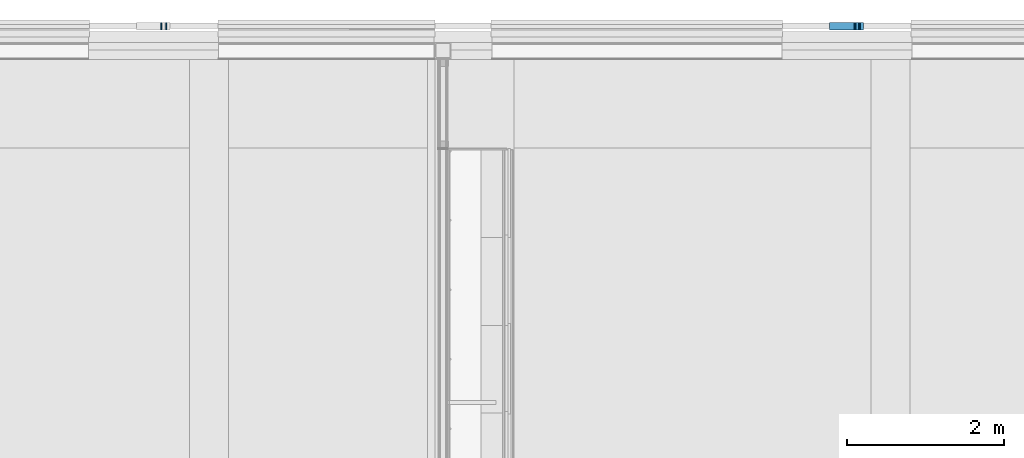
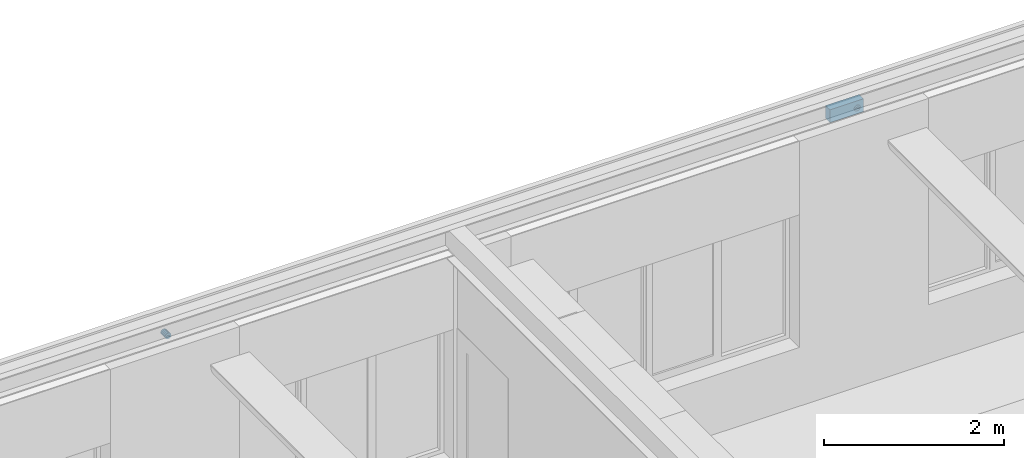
# One storey, part 100 of 137: 4 building element parts, 2 elements without a shape of their own.
"""IFC2X3 building model written with IfcOpenShell, lengths in millimetres."""

import ifcopenshell
import ifcopenshell.guid

model = None  # the IFC model being written
_history = None  # IfcOwnerHistory: only IFC2X3 demands one
_inside = {}  # id of a spatial element -> (the spatial element, [elements in it])
_under = {}  # id of a project, library or spatial element -> (it, [spatial elements below it])
_declared = {}  # id of a project -> (the project, [libraries it declares])
_typed = {}  # id of a type object -> (the type object, [elements of that type])
_made_of = {}  # id of a material, layer set ... -> (it, [elements and type objects made of it])


def new_model(schema):
    """Start an empty IFC model of exactly this schema.

    Asked for "IFC4X3", IfcOpenShell would pick the latest addendum, in which some entities
    have other attributes; the version numbers below select the first issue.
    IFC2X3 requires an IfcOwnerHistory on every rooted entity: one is made here for all.
    """
    global model, _history
    if schema == "IFC4X3":
        model = ifcopenshell.file(schema_version=(4, 3, 0, 0))
    else:
        model = ifcopenshell.file(schema=schema)
    _inside.clear()
    _under.clear()
    _declared.clear()
    _typed.clear()
    _made_of.clear()
    _history = None
    if model.schema == "IFC2X3":
        org = make("IfcOrganization", Name="unknown")
        user = make(
            "IfcPersonAndOrganization",
            ThePerson=make("IfcPerson", FamilyName="unknown"),
            TheOrganization=org,
        )
        app = make(
            "IfcApplication",
            ApplicationDeveloper=org,
            Version="unknown",
            ApplicationFullName="unknown",
            ApplicationIdentifier="unknown",
        )
        _history = make(
            "IfcOwnerHistory",
            OwningUser=user,
            OwningApplication=app,
            ChangeAction="ADDED",
            CreationDate=0,
        )
    return model


def make(cls, **values):
    """One entity of the class cls with the attributes given. An attribute that is None is left unset."""
    return model.create_entity(
        cls, **{name: value for name, value in values.items() if value is not None}
    )


def entity(cls, *values):
    """Any entity or typed value of the class cls, its attributes in the order of the schema. None: left unset."""
    e = model.create_entity(cls)
    for i, value in enumerate(values):
        if value is not None:
            e[i] = value
    return e


def rooted(cls, **values):
    """An entity with a GlobalId (a new one), such as an element, a storey or a relation."""
    return make(cls, GlobalId=ifcopenshell.guid.new(), OwnerHistory=_history, **values)


def si_unit(unit_type, name, prefix=None):
    """IfcSIUnit, for example si_unit("LENGTHUNIT", "METRE", prefix="MILLI")."""
    return make("IfcSIUnit", UnitType=unit_type, Prefix=prefix, Name=name)


def converted_unit(unit_type, name, factor, base, dimensions=None, offset=None):
    """IfcConversionBasedUnit, such as the inch: factor (a typed value) times the base unit."""
    return make(
        "IfcConversionBasedUnit"
        if offset is None
        else "IfcConversionBasedUnitWithOffset",
        ConversionOffset=offset,
        Dimensions=None
        if dimensions is None
        else entity("IfcDimensionalExponents", *dimensions),
        UnitType=unit_type,
        Name=name,
        ConversionFactor=make(
            "IfcMeasureWithUnit", ValueComponent=factor, UnitComponent=base
        ),
    )


def derived_unit(unit_type, elements):
    """IfcDerivedUnit: a product of units, each with its exponent."""
    return make(
        "IfcDerivedUnit",
        Elements=[
            make("IfcDerivedUnitElement", Unit=unit, Exponent=power)
            for unit, power in elements
        ],
        UnitType=unit_type,
    )


def money_unit(currency):
    """IfcMonetaryUnit."""
    return make("IfcMonetaryUnit", Currency=currency)


def assignment(units):
    """IfcUnitAssignment: the units of a project."""
    return None if units is None else make("IfcUnitAssignment", Units=units)


def point(xyz):
    """IfcCartesianPoint."""
    return None if xyz is None else make("IfcCartesianPoint", Coordinates=xyz)


def direction(xyz):
    """IfcDirection."""
    return None if xyz is None else make("IfcDirection", DirectionRatios=xyz)


def frame(location, z_axis=None, x_axis=None):
    """IfcAxis2Placement3D, a coordinate frame: its origin and axes. An axis left out is left unset."""
    return make(
        "IfcAxis2Placement3D",
        Location=point(location),
        Axis=direction(z_axis),
        RefDirection=direction(x_axis),
    )


def origin_with_axes():
    """The frame at (0, 0, 0) with the z axis (0, 0, 1) and the x axis (1, 0, 0) written out."""
    return frame((0.0, 0.0, 0.0), z_axis=(0.0, 0.0, 1.0), x_axis=(1.0, 0.0, 0.0))


def place(relative_to, where):
    """IfcLocalPlacement: puts the frame where relative to a parent placement (None: the world)."""
    return make(
        "IfcLocalPlacement", PlacementRelTo=relative_to, RelativePlacement=where
    )


def context(
    kind, dimensions, precision=None, world=None, true_north=None, identifier=None
):
    """IfcGeometricRepresentationContext, for example the 3D "Model" context."""
    return make(
        "IfcGeometricRepresentationContext",
        ContextIdentifier=identifier,
        ContextType=kind,
        CoordinateSpaceDimension=dimensions,
        Precision=precision,
        WorldCoordinateSystem=world,
        TrueNorth=true_north,
    )


def subcontext(parent, identifier, kind, view, scale=None):
    """IfcGeometricRepresentationSubContext, for example "Body" below "Model"."""
    return make(
        "IfcGeometricRepresentationSubContext",
        ContextIdentifier=identifier,
        ContextType=kind,
        ParentContext=parent,
        TargetScale=scale,
        TargetView=view,
    )


def project(units=None, contexts=None):
    """IfcProject with its units and contexts."""
    return rooted(
        "IfcProject",
        Name="project",
        RepresentationContexts=contexts,
        UnitsInContext=assignment(units),
    )


def spatial(cls, under=None, at=None, **own):
    """A site, building, storey or space (cls), placed at a placement, below another one or the project."""
    s = rooted(cls, ObjectPlacement=at, **own)
    if under is not None:
        _under.setdefault(under.id(), (under, []))[1].append(s)
    return s


def faces_of(points, faces, orient=None, outer=None):
    """IfcFace entities. A face is a list of loops; a loop is a list of indices into points, from 0.

    orient and outer hold one flag for each loop. By default every Orientation is true, the
    first loop of a face is its IfcFaceOuterBound and the others are IfcFaceBound.
    """
    made = []
    for i, loops in enumerate(faces):
        bounds = []
        for j, loop in enumerate(loops):
            is_outer = j == 0 if outer is None else outer[i][j]
            bounds.append(
                make(
                    "IfcFaceOuterBound" if is_outer else "IfcFaceBound",
                    Bound=make("IfcPolyLoop", Polygon=[points[k] for k in loop]),
                    Orientation=True if orient is None else orient[i][j],
                )
            )
        made.append(make("IfcFace", Bounds=bounds))
    return made


def faceted_brep(points, faces, orient=None, outer=None, voids=None):
    """IfcFacetedBrep: a solid bounded by flat faces; with voids (closed shells), ...WithVoids."""
    shared = [point(p) for p in points]
    hull = make("IfcClosedShell", CfsFaces=faces_of(shared, faces, orient, outer))
    if voids is None:
        return make("IfcFacetedBrep", Outer=hull)
    return make(
        "IfcFacetedBrepWithVoids",
        Outer=hull,
        Voids=[
            make(cls, CfsFaces=faces_of(shared, fs, o, b)) for cls, fs, o, b in voids
        ],
    )


def shape(context_of_items, identifier, shape_type, items):
    """IfcShapeRepresentation: the items that make up one representation, for example the "Body"."""
    return make(
        "IfcShapeRepresentation",
        ContextOfItems=context_of_items,
        RepresentationIdentifier=identifier,
        RepresentationType=shape_type,
        Items=items,
    )


def material(Name=None, Category=None):
    """IfcMaterial."""
    return make("IfcMaterial", Name=Name, Category=Category)


def made_of(thing, what):
    """Note that an element or type object is made of a material, layer set ...; save() writes the relation."""
    if what is not None:
        _made_of.setdefault(what.id(), (what, []))[1].append(thing)
    return thing


def type_object(cls, material=None, **own):
    """A type object (cls), such as IfcWallType, which elements share."""
    return made_of(rooted(cls, **own), material)


def element(
    cls,
    number,
    at=None,
    inside=None,
    cuts=None,
    type_object=None,
    material=None,
    context=None,
    identifier="Body",
    shape_type=None,
    held_by="IfcProductDefinitionShape",
    body=None,
    shapes=None,
    **own,
):
    """One element of the class cls, such as IfcWall. Its Tag is "e" and its number.

    at: its placement. inside: the storey or other place that contains it. cuts: it is an
    opening in that element (IfcRelVoidsElement). A single representation is given by context,
    identifier, shape_type and body (its items); several are given by shapes. held_by: the class
    of the entity that holds the representations. save() writes the other relations.
    """
    e = rooted(cls, Tag="e%d" % number, ObjectPlacement=at, **own)
    if body is not None:
        shapes = [shape(context, identifier, shape_type, body)]
    if shapes is not None:
        e.Representation = make(held_by, Representations=shapes)
    if inside is not None:
        _inside.setdefault(inside.id(), (inside, []))[1].append(e)
    if cuts is not None:
        rooted(
            "IfcRelVoidsElement", RelatingBuildingElement=cuts, RelatedOpeningElement=e
        )
    if type_object is not None:
        _typed.setdefault(type_object.id(), (type_object, []))[1].append(e)
    return made_of(e, material)


def aggregate(whole, parts):
    """IfcRelAggregates: a whole, such as a stair, and the parts it consists of."""
    return rooted("IfcRelAggregates", RelatingObject=whole, RelatedObjects=parts)


def save(model, path):
    """Write the relations noted so far, then the file.

    IfcRelAggregates (storeys below a building ...), IfcRelContainedInSpatialStructure (elements
    in a storey), IfcRelDefinesByType, IfcRelAssociatesMaterial and IfcRelDeclares: one each for
    every whole, place, type object, material and project.
    """
    for whole, parts in _under.values():
        aggregate(whole, parts)
    for where, things in _inside.values():
        rooted(
            "IfcRelContainedInSpatialStructure",
            RelatedElements=things,
            RelatingStructure=where,
        )
    for kind, things in _typed.values():
        rooted("IfcRelDefinesByType", RelatedObjects=things, RelatingType=kind)
    for what, things in _made_of.values():
        rooted("IfcRelAssociatesMaterial", RelatedObjects=things, RelatingMaterial=what)
    for by, libraries in _declared.values():
        rooted("IfcRelDeclares", RelatingContext=by, RelatedDefinitions=libraries)
    model.write(path)


model = new_model("IFC2X3")

# Units and contexts
model_context = context("Model", 3, precision=0.01, world=origin_with_axes(), true_north=direction((0.0, 1.0)))
body_context = subcontext(model_context, "Body", "Model", "MODEL_VIEW")
ifc_project = project(units=[si_unit("LENGTHUNIT", "METRE", prefix="MILLI"), si_unit("AREAUNIT", "SQUARE_METRE"), si_unit("VOLUMEUNIT", "CUBIC_METRE"), converted_unit("PLANEANGLEUNIT", "DEGREE", entity("IfcPlaneAngleMeasure", 0.0174532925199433), si_unit("PLANEANGLEUNIT", "RADIAN"), dimensions=[0, 0, 0, 0, 0, 0, 0]), money_unit("EUR"), converted_unit("TIMEUNIT", "Year", entity("IfcTimeMeasure", 31556926.0), si_unit("TIMEUNIT", "SECOND"), dimensions=[0, 0, 1, 0, 0, 0, 0]), si_unit("MASSUNIT", "GRAM", prefix="KILO"), si_unit("THERMODYNAMICTEMPERATUREUNIT", "DEGREE_CELSIUS"), si_unit("LUMINOUSINTENSITYUNIT", "LUMEN"), si_unit("ENERGYUNIT", "JOULE", prefix="MEGA"), derived_unit("THERMALCONDUCTANCEUNIT", [(si_unit("POWERUNIT", "WATT"), 1), (si_unit("LENGTHUNIT", "METRE"), -1), (si_unit("THERMODYNAMICTEMPERATUREUNIT", "KELVIN"), -1)]), derived_unit("SPECIFICHEATCAPACITYUNIT", [(si_unit("ENERGYUNIT", "JOULE"), 1), (si_unit("MASSUNIT", "GRAM", prefix="KILO"), -1), (si_unit("THERMODYNAMICTEMPERATUREUNIT", "KELVIN"), -1)]), derived_unit("MASSDENSITYUNIT", [(si_unit("MASSUNIT", "GRAM", prefix="KILO"), 1), (si_unit("VOLUMEUNIT", "CUBIC_METRE"), -1)])], contexts=[model_context])

# Site, building, storey
site_placement = place(None, origin_with_axes())
site = spatial("IfcSite", under=ifc_project, at=site_placement, Name="Site", CompositionType="ELEMENT")
building_placement = place(site_placement, origin_with_axes())
building = spatial("IfcBuilding", under=site, at=building_placement, Name="Naam gebouw", CompositionType="ELEMENT")
storey_placement = place(building_placement, frame((0.0, 0.0, 3960.0), z_axis=(0.0, 0.0, 1.0), x_axis=(1.0, 0.0, 0.0)))
storey = spatial("IfcBuildingStorey", under=building, at=storey_placement, Name="1e verdieping", CompositionType="ELEMENT", Elevation=3960.0)

# Beam, building element parts
beam_type = type_object("IfcBeamType", Name="41 Nestkast zwaluw 430 x 175", PredefinedType="BEAM")
beam_1_placement = place(storey_placement, frame((13784.99942456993, 29435.0, 3410.000000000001), z_axis=(0.0, 0.0, 1.0), x_axis=(-1.0, 0.0, 0.0)))
beam_1 = element("IfcBeam", 1, at=beam_1_placement, inside=storey, type_object=beam_type, Name="_Regenwaterafvoer-x", ObjectType="BEAM")
ifc_material_1 = material(Name="Beton gewapend C")
building_element_part_1_placement = place(beam_1_placement, origin_with_axes())
building_element_part_1 = element("IfcBuildingElementPart", 2, at=building_element_part_1_placement, material=ifc_material_1, Name="Beton gewapend C", context=body_context, shape_type="Brep", body=[
    faceted_brep([(-386.9551813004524, 100.0000000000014, 64.69266270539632), (-378.2842712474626, 100.0000000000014, 51.71572875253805), (-378.2842712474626, 0.0, 51.71572875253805), (-386.9551813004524, 0.0, 64.69266270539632), (-390.0000000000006, 100.0000000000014, 80.00000000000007), (-386.9551813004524, 100.0000000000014, 95.30733729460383), (-378.2842712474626, 100.0000000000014, 108.2842712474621), (-365.3073372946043, 100.0000000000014, 116.9551813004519), (-349.9999999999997, 100.0000000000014, 120.0000000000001), (-334.6926627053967, 100.0000000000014, 116.9551813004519), (-321.7157287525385, 100.0000000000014, 108.2842712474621), (-313.0448186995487, 100.0000000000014, 95.30733729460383), (-310.0000000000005, 100.0000000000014, 80.00000000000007), (-313.0448186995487, 100.0000000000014, 64.69266270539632), (-321.7157287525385, 100.0000000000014, 51.71572875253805), (-334.6926627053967, 100.0000000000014, 43.04481869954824), (-349.9999999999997, 100.0000000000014, 40.00000000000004), (-365.3073372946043, 100.0000000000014, 43.04481869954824), (-330.0000000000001, 100.0000000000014, 75.00000000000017), (-330.0000000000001, 100.0000000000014, 84.99999999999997), (-331.4644660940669, 100.0000000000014, 88.53553390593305), (-334.9999999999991, 100.0000000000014, 89.99999999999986), (-365.0000000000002, 100.0000000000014, 89.99999999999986), (-368.5355339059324, 100.0000000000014, 88.53553390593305), (-369.9999999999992, 100.0000000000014, 84.99999999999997), (-369.9999999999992, 100.0000000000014, 75.00000000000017), (-368.5355339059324, 100.0000000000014, 71.46446609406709), (-365.0000000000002, 100.0000000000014, 70.00000000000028), (-334.9999999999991, 100.0000000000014, 70.00000000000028), (-331.4644660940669, 100.0000000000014, 71.46446609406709), (-365.3073372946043, 0.0, 43.04481869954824), (-349.9999999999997, 0.0, 40.00000000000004), (-334.6926627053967, 0.0, 43.04481869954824), (-321.7157287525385, 0.0, 51.71572875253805), (-313.0448186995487, 0.0, 64.69266270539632), (-310.0000000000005, 0.0, 80.00000000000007), (-313.0448186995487, 0.0, 95.30733729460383), (-321.7157287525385, 0.0, 108.2842712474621), (-334.6926627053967, 0.0, 116.9551813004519), (-349.9999999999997, 0.0, 120.0000000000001), (-365.3073372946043, 0.0, 116.9551813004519), (-378.2842712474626, 0.0, 108.2842712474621), (-386.9551813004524, 0.0, 95.30733729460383), (-390.0000000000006, 0.0, 80.00000000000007), (-330.0000000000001, 0.0, 75.00000000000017), (-331.4644660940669, 0.0, 71.46446609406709), (-334.9999999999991, 0.0, 70.00000000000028), (-365.0000000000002, 0.0, 70.00000000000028), (-368.5355339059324, 0.0, 71.46446609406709), (-369.9999999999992, 0.0, 75.00000000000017), (-369.9999999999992, 0.0, 84.99999999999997), (-368.5355339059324, 0.0, 88.53553390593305), (-365.0000000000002, 0.0, 89.99999999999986), (-334.9999999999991, 0.0, 89.99999999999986), (-331.4644660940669, 0.0, 88.53553390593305), (-330.0000000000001, 0.0, 84.99999999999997)], [[[0, 1, 2, 3]], [[0, 4, 5, 6, 7, 8, 9, 10, 11, 12, 13, 14, 15, 16, 17, 1], [18, 19, 20, 21, 22, 23, 24, 25, 26, 27, 28, 29]], [[1, 17, 30, 2]], [[3, 2, 30, 31, 32, 33, 34, 35, 36, 37, 38, 39, 40, 41, 42, 43], [44, 45, 46, 47, 48, 49, 50, 51, 52, 53, 54, 55]], [[4, 0, 3, 43]], [[5, 4, 43, 42]], [[6, 5, 42, 41]], [[7, 6, 41, 40]], [[8, 7, 40, 39]], [[9, 8, 39, 38]], [[10, 9, 38, 37]], [[11, 10, 37, 36]], [[12, 11, 36, 35]], [[13, 12, 35, 34]], [[14, 13, 34, 33]], [[15, 14, 33, 32]], [[16, 15, 32, 31]], [[17, 16, 31, 30]], [[19, 18, 44, 55]], [[20, 19, 55, 54]], [[21, 20, 54, 53]], [[22, 21, 53, 52]], [[23, 22, 52, 51]], [[24, 23, 51, 50]], [[25, 24, 50, 49]], [[26, 25, 49, 48]], [[27, 26, 48, 47]], [[28, 27, 47, 46]], [[29, 28, 46, 45]], [[18, 29, 45, 44]]]),
])
ifc_material_2 = material(Name="Beton gewapend C vloer")
building_element_part_2_placement = place(beam_1_placement, origin_with_axes())
building_element_part_2 = element("IfcBuildingElementPart", 3, at=building_element_part_2_placement, material=ifc_material_2, Name="Beton gewapend C vloer", context=body_context, shape_type="Brep", body=[
    faceted_brep([(-365.0000000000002, 100.0000000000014, 89.99999999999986), (-368.5355339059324, 100.0000000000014, 88.53553390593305), (-368.5355339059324, 0.0, 88.53553390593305), (-365.0000000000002, 0.0, 89.99999999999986), (-334.9999999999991, 100.0000000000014, 89.99999999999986), (-331.4644660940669, 100.0000000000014, 88.53553390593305), (-330.0000000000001, 100.0000000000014, 84.99999999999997), (-330.0000000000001, 100.0000000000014, 75.00000000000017), (-331.4644660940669, 100.0000000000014, 71.46446609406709), (-334.9999999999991, 100.0000000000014, 70.00000000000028), (-365.0000000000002, 100.0000000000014, 70.00000000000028), (-368.5355339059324, 100.0000000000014, 71.46446609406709), (-369.9999999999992, 100.0000000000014, 75.00000000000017), (-369.9999999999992, 100.0000000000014, 84.99999999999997), (-369.9999999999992, 0.0, 84.99999999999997), (-369.9999999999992, 0.0, 75.00000000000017), (-368.5355339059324, 0.0, 71.46446609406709), (-365.0000000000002, 0.0, 70.00000000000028), (-334.9999999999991, 0.0, 70.00000000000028), (-331.4644660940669, 0.0, 71.46446609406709), (-330.0000000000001, 0.0, 75.00000000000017), (-330.0000000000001, 0.0, 84.99999999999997), (-331.4644660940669, 0.0, 88.53553390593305), (-334.9999999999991, 0.0, 89.99999999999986)], [[[0, 1, 2, 3]], [[0, 4, 5, 6, 7, 8, 9, 10, 11, 12, 13, 1]], [[1, 13, 14, 2]], [[3, 2, 14, 15, 16, 17, 18, 19, 20, 21, 22, 23]], [[4, 0, 3, 23]], [[5, 4, 23, 22]], [[6, 5, 22, 21]], [[7, 6, 21, 20]], [[8, 7, 20, 19]], [[9, 8, 19, 18]], [[10, 9, 18, 17]], [[11, 10, 17, 16]], [[12, 11, 16, 15]], [[13, 12, 15, 14]]]),
])
ifc_material_3 = material(Name="Beton C")
building_element_part_3_placement = place(beam_1_placement, origin_with_axes())
building_element_part_3 = element("IfcBuildingElementPart", 4, at=building_element_part_3_placement, material=ifc_material_3, Name="Beton C", context=body_context, shape_type="Brep", body=[
    faceted_brep([(-429.9999999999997, 100.0000000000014, 0.0), (0.0, 100.0000000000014, 0.0), (0.0, 0.0, 0.0), (-429.9999999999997, 0.0, 0.0), (-429.9999999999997, 100.0000000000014, 174.9999999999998), (0.0, 100.0000000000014, 174.9999999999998), (-313.0448186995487, 100.0000000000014, 64.69266270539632), (-310.0000000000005, 100.0000000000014, 80.00000000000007), (-313.0448186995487, 100.0000000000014, 95.30733729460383), (-321.7157287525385, 100.0000000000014, 108.2842712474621), (-334.6926627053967, 100.0000000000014, 116.9551813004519), (-349.9999999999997, 100.0000000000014, 120.0000000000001), (-365.3073372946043, 100.0000000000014, 116.9551813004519), (-378.2842712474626, 100.0000000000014, 108.2842712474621), (-386.9551813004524, 100.0000000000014, 95.30733729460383), (-390.0000000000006, 100.0000000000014, 80.00000000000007), (-386.9551813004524, 100.0000000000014, 64.69266270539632), (-378.2842712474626, 100.0000000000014, 51.71572875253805), (-365.3073372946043, 100.0000000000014, 43.04481869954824), (-349.9999999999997, 100.0000000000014, 40.00000000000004), (-334.6926627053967, 100.0000000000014, 43.04481869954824), (-321.7157287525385, 100.0000000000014, 51.71572875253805), (0.0, 0.0, 174.9999999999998), (-429.9999999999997, 0.0, 174.9999999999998), (-313.0448186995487, 0.0, 64.69266270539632), (-321.7157287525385, 0.0, 51.71572875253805), (-334.6926627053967, 0.0, 43.04481869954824), (-349.9999999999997, 0.0, 40.00000000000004), (-365.3073372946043, 0.0, 43.04481869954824), (-378.2842712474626, 0.0, 51.71572875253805), (-386.9551813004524, 0.0, 64.69266270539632), (-390.0000000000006, 0.0, 80.00000000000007), (-386.9551813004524, 0.0, 95.30733729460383), (-378.2842712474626, 0.0, 108.2842712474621), (-365.3073372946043, 0.0, 116.9551813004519), (-349.9999999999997, 0.0, 120.0000000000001), (-334.6926627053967, 0.0, 116.9551813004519), (-321.7157287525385, 0.0, 108.2842712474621), (-313.0448186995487, 0.0, 95.30733729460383), (-310.0000000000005, 0.0, 80.00000000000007)], [[[0, 1, 2, 3]], [[0, 4, 5, 1], [6, 7, 8, 9, 10, 11, 12, 13, 14, 15, 16, 17, 18, 19, 20, 21]], [[1, 5, 22, 2]], [[3, 2, 22, 23], [24, 25, 26, 27, 28, 29, 30, 31, 32, 33, 34, 35, 36, 37, 38, 39]], [[4, 0, 3, 23]], [[5, 4, 23, 22]], [[7, 6, 24, 39]], [[8, 7, 39, 38]], [[9, 8, 38, 37]], [[10, 9, 37, 36]], [[11, 10, 36, 35]], [[12, 11, 35, 34]], [[13, 12, 34, 33]], [[14, 13, 33, 32]], [[15, 14, 32, 31]], [[16, 15, 31, 30]], [[17, 16, 30, 29]], [[18, 17, 29, 28]], [[19, 18, 28, 27]], [[20, 19, 27, 26]], [[21, 20, 26, 25]], [[6, 21, 25, 24]]]),
])
aggregate(beam_1, [building_element_part_1, building_element_part_2, building_element_part_3])

# Beam, building element part
beam_2_placement = place(storey_placement, frame((4934.999999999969, 29435.0, 3410.000000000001), z_axis=(0.0, 0.0, 1.0), x_axis=(-1.0, 0.0, 0.0)))
beam_2 = element("IfcBeam", 5, at=beam_2_placement, inside=storey, type_object=beam_type, Name="_Regenwaterafvoer-x", ObjectType="BEAM")
building_element_part_4_placement = place(beam_2_placement, origin_with_axes())
building_element_part_4 = element("IfcBuildingElementPart", 6, at=building_element_part_4_placement, material=ifc_material_1, Name="Beton gewapend C", context=body_context, shape_type="Brep", body=[
    faceted_brep([(-386.9551813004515, 100.0000000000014, 64.69266270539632), (-378.2842712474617, 100.0000000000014, 51.71572875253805), (-378.2842712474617, 0.0, 51.71572875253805), (-386.9551813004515, 0.0, 64.69266270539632), (-389.9999999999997, 100.0000000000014, 80.00000000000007), (-386.9551813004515, 100.0000000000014, 95.30733729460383), (-378.2842712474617, 100.0000000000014, 108.2842712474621), (-365.3073372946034, 100.0000000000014, 116.9551813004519), (-349.9999999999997, 100.0000000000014, 120.0000000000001), (-334.6926627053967, 100.0000000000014, 116.9551813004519), (-321.7157287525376, 100.0000000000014, 108.2842712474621), (-313.0448186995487, 100.0000000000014, 95.30733729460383), (-309.9999999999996, 100.0000000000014, 80.00000000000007), (-313.0448186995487, 100.0000000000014, 64.69266270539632), (-321.7157287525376, 100.0000000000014, 51.71572875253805), (-334.6926627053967, 100.0000000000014, 43.04481869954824), (-349.9999999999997, 100.0000000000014, 40.00000000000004), (-365.3073372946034, 100.0000000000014, 43.04481869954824), (-330.0000000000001, 100.0000000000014, 75.00000000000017), (-330.0000000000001, 100.0000000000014, 84.99999999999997), (-331.4644660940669, 100.0000000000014, 88.53553390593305), (-334.9999999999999, 100.0000000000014, 89.99999999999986), (-365.0000000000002, 100.0000000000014, 89.99999999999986), (-368.5355339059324, 100.0000000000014, 88.53553390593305), (-370.0000000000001, 100.0000000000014, 84.99999999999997), (-370.0000000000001, 100.0000000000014, 75.00000000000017), (-368.5355339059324, 100.0000000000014, 71.46446609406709), (-365.0000000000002, 100.0000000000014, 70.00000000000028), (-334.9999999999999, 100.0000000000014, 70.00000000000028), (-331.4644660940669, 100.0000000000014, 71.46446609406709), (-365.3073372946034, 0.0, 43.04481869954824), (-349.9999999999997, 0.0, 40.00000000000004), (-334.6926627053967, 0.0, 43.04481869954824), (-321.7157287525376, 0.0, 51.71572875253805), (-313.0448186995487, 0.0, 64.69266270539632), (-309.9999999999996, 0.0, 80.00000000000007), (-313.0448186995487, 0.0, 95.30733729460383), (-321.7157287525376, 0.0, 108.2842712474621), (-334.6926627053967, 0.0, 116.9551813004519), (-349.9999999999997, 0.0, 120.0000000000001), (-365.3073372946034, 0.0, 116.9551813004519), (-378.2842712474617, 0.0, 108.2842712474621), (-386.9551813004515, 0.0, 95.30733729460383), (-389.9999999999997, 0.0, 80.00000000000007), (-330.0000000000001, 0.0, 75.00000000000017), (-331.4644660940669, 0.0, 71.46446609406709), (-334.9999999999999, 0.0, 70.00000000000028), (-365.0000000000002, 0.0, 70.00000000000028), (-368.5355339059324, 0.0, 71.46446609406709), (-370.0000000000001, 0.0, 75.00000000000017), (-370.0000000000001, 0.0, 84.99999999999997), (-368.5355339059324, 0.0, 88.53553390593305), (-365.0000000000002, 0.0, 89.99999999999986), (-334.9999999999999, 0.0, 89.99999999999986), (-331.4644660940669, 0.0, 88.53553390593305), (-330.0000000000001, 0.0, 84.99999999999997)], [[[0, 1, 2, 3]], [[0, 4, 5, 6, 7, 8, 9, 10, 11, 12, 13, 14, 15, 16, 17, 1], [18, 19, 20, 21, 22, 23, 24, 25, 26, 27, 28, 29]], [[1, 17, 30, 2]], [[3, 2, 30, 31, 32, 33, 34, 35, 36, 37, 38, 39, 40, 41, 42, 43], [44, 45, 46, 47, 48, 49, 50, 51, 52, 53, 54, 55]], [[4, 0, 3, 43]], [[5, 4, 43, 42]], [[6, 5, 42, 41]], [[7, 6, 41, 40]], [[8, 7, 40, 39]], [[9, 8, 39, 38]], [[10, 9, 38, 37]], [[11, 10, 37, 36]], [[12, 11, 36, 35]], [[13, 12, 35, 34]], [[14, 13, 34, 33]], [[15, 14, 33, 32]], [[16, 15, 32, 31]], [[17, 16, 31, 30]], [[19, 18, 44, 55]], [[20, 19, 55, 54]], [[21, 20, 54, 53]], [[22, 21, 53, 52]], [[23, 22, 52, 51]], [[24, 23, 51, 50]], [[25, 24, 50, 49]], [[26, 25, 49, 48]], [[27, 26, 48, 47]], [[28, 27, 47, 46]], [[29, 28, 46, 45]], [[18, 29, 45, 44]]]),
])
aggregate(beam_2, [building_element_part_4])

save(model, "model.ifc")
